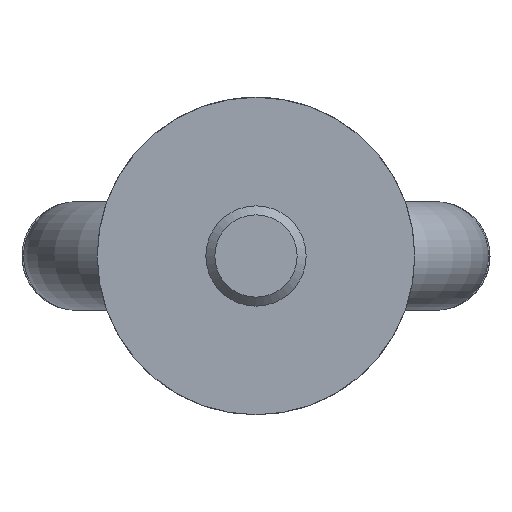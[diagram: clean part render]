
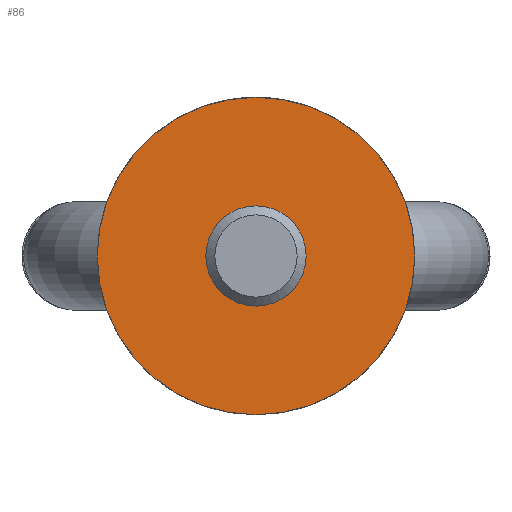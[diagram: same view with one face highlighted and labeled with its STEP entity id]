
A CAD part, front view. The second image highlights one B-rep face of the part: STEP entity #86.
In plain terms, the highlighted planar face has unit normal (0, -1, 0).
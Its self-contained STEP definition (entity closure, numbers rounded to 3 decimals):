
#86 = ADVANCED_FACE( '', ( #132, #133 ), #134, .F. );
#132 = FACE_BOUND( '', #200, .T. );
#133 = FACE_OUTER_BOUND( '', #201, .T. );
#134 = PLANE( '', #202 );
#200 = EDGE_LOOP( '', ( #307 ) );
#201 = EDGE_LOOP( '', ( #308 ) );
#202 = AXIS2_PLACEMENT_3D( '', #309, #310, #311 );
#307 = ORIENTED_EDGE( '', *, *, #413, .T. );
#308 = ORIENTED_EDGE( '', *, *, #427, .T. );
#309 = CARTESIAN_POINT( '', ( 19., 0., 0. ) );
#310 = DIRECTION( '', ( 0., 1., 0. ) );
#311 = DIRECTION( '', ( 0., 0., 1. ) );
#413 = EDGE_CURVE( '', #471, #471, #472, .T. );
#427 = EDGE_CURVE( '', #496, #496, #497, .T. );
#471 = VERTEX_POINT( '', #877 );
#472 = CIRCLE( '', #878, 6. );
#496 = VERTEX_POINT( '', #916 );
#497 = CIRCLE( '', #917, 19. );
#877 = CARTESIAN_POINT( '', ( 0., 0., 6. ) );
#878 = AXIS2_PLACEMENT_3D( '', #1011, #1012, #1013 );
#916 = CARTESIAN_POINT( '', ( 0., 0., -19. ) );
#917 = AXIS2_PLACEMENT_3D( '', #1034, #1035, #1036 );
#1011 = CARTESIAN_POINT( '', ( 0., 0., 0. ) );
#1012 = DIRECTION( '', ( 0., 1., 0. ) );
#1013 = DIRECTION( '', ( 0., 0., 1. ) );
#1034 = CARTESIAN_POINT( '', ( 0., 0., 0. ) );
#1035 = DIRECTION( '', ( 0., -1., 0. ) );
#1036 = DIRECTION( '', ( 0., 0., -1. ) );
